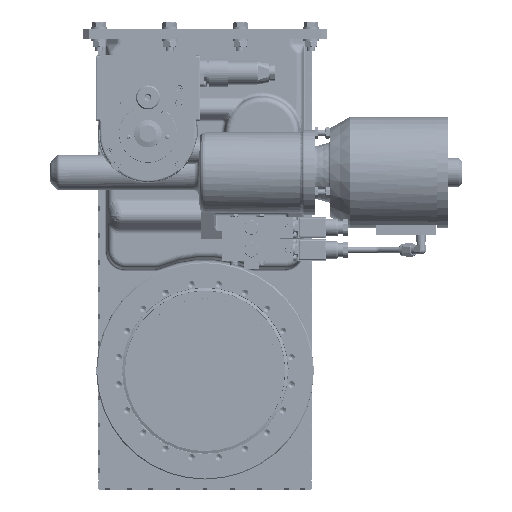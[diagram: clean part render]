
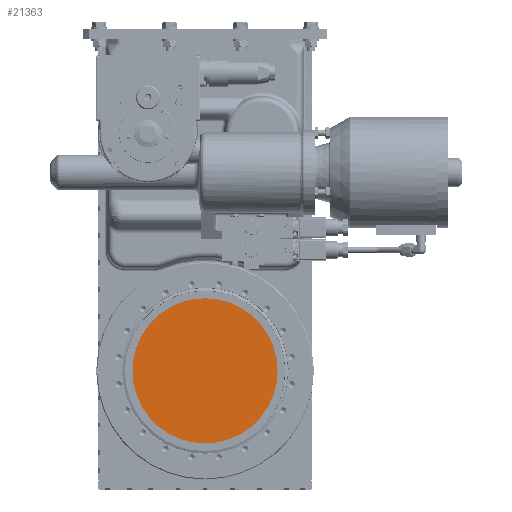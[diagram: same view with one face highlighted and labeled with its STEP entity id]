
A CAD part, top view. The second image highlights one B-rep face of the part: STEP entity #21363.
In plain terms, the highlighted planar face has unit normal (0, 0, 1).
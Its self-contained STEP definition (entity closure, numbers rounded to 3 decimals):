
#17909=PLANE('',#59105);
#19237=FACE_OUTER_BOUND('',#27888,.T.);
#21363=ADVANCED_FACE('',(#19237),#17909,.F.);
#27888=EDGE_LOOP('',(#32347));
#32347=ORIENTED_EDGE('',*,*,#49860,.F.);
#45317=VERTEX_POINT('',#79457);
#49860=EDGE_CURVE('',#45317,#45317,#56346,.T.);
#56346=CIRCLE('',#59102,75.05);
#59102=AXIS2_PLACEMENT_3D('',#79456,#65019,#65020);
#59105=AXIS2_PLACEMENT_3D('',#79461,#65025,#65026);
#65019=DIRECTION('',(0.,0.,-1.));
#65020=DIRECTION('',(0.,-1.,0.));
#65025=DIRECTION('',(0.,0.,-1.));
#65026=DIRECTION('',(-1.,0.,0.));
#79456=CARTESIAN_POINT('',(0.,-348.85,11.225));
#79457=CARTESIAN_POINT('',(0.,-423.9,11.225));
#79461=CARTESIAN_POINT('',(0.,-348.85,11.225));
